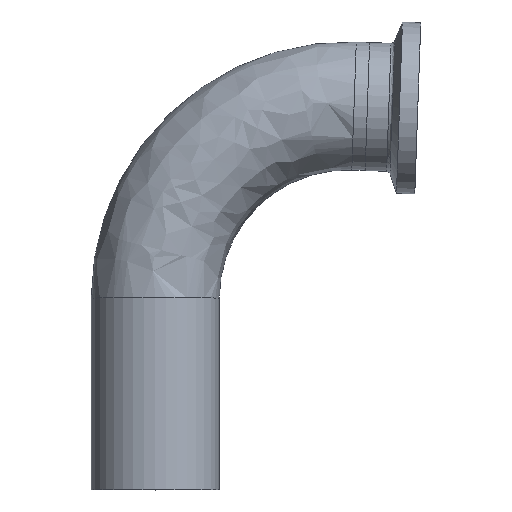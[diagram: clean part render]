
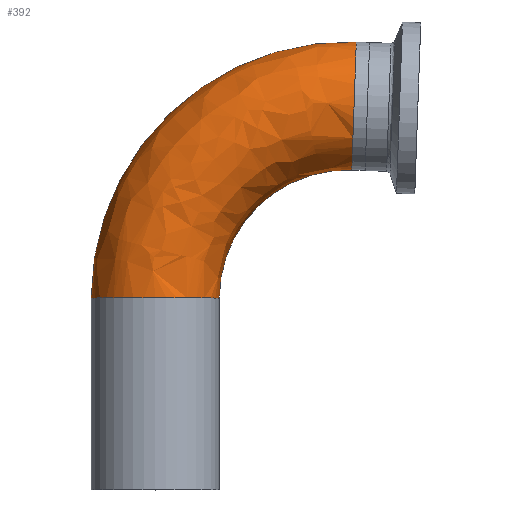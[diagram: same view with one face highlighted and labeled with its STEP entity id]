
A CAD part, top view. The second image highlights one B-rep face of the part: STEP entity #392.
In plain terms, the highlighted free-form (B-spline) face has degree [3, 3] with [4, 4] control points.
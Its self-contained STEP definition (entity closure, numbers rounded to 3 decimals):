
#55 = AXIS2_PLACEMENT_3D ( 'NONE', #901, #341, #1242 ) ;
#93 = EDGE_CURVE ( 'NONE', #308, #346, #819, .T. ) ;
#213 = EDGE_CURVE ( 'NONE', #777, #415, #681, .T. ) ;
#237 = EDGE_CURVE ( 'NONE', #308, #415, #755, .T. ) ;
#295 = AXIS2_PLACEMENT_3D ( 'NONE', #1063, #533, #599 ) ;
#304 = ORIENTED_EDGE ( 'NONE', *, *, #213, .T. ) ;
#308 = VERTEX_POINT ( 'NONE', #402 ) ;
#321 = ORIENTED_EDGE ( 'NONE', *, *, #783, .T. ) ;
#341 = DIRECTION ( 'NONE',  ( 0., 1., 0. ) ) ;
#346 = VERTEX_POINT ( 'NONE', #678 ) ;
#392 = ADVANCED_FACE ( 'NONE', ( #1168 ), #582, .T. ) ;
#402 = CARTESIAN_POINT ( 'NONE',  ( -12.7, 38.055, 0. ) ) ;
#405 = ORIENTED_EDGE ( 'NONE', *, *, #93, .T. ) ;
#415 = VERTEX_POINT ( 'NONE', #1013 ) ;
#520 = AXIS2_PLACEMENT_3D ( 'NONE', #815, #904, #715 ) ;
#533 = DIRECTION ( 'NONE',  ( 0., 0., -1. ) ) ;
#582 =( BOUNDED_SURFACE ( )  B_SPLINE_SURFACE ( 3, 3, ( 
 ( #709, #1141, #1122, #1116 ),
 ( #1111, #1040, #1028, #1019 ),
 ( #1016, #921, #853, #839 ),
 ( #837, #820, #814, #754 ) ),
 .UNSPECIFIED., .F., .F., .F. ) 
 B_SPLINE_SURFACE_WITH_KNOTS ( ( 4, 4 ),
 ( 4, 4 ),
 ( 0., 1. ),
 ( 0., 1. ),
 .UNSPECIFIED. ) 
 GEOMETRIC_REPRESENTATION_ITEM ( )  RATIONAL_B_SPLINE_SURFACE ( (
 ( 1., 0.796, 0.796, 1.),
 ( 0.333, 0.265, 0.265, 0.333),
 ( 0.333, 0.265, 0.265, 0.333),
 ( 1., 0.796, 0.796, 1.) ) ) 
 REPRESENTATION_ITEM ( '' )  SURFACE ( )  );
#599 = DIRECTION ( 'NONE',  ( -1., 0., 0. ) ) ;
#659 = EDGE_LOOP ( 'NONE', ( #405, #321, #304, #747 ) ) ;
#678 = CARTESIAN_POINT ( 'NONE',  ( 12.7, 38.055, 0. ) ) ;
#681 = CIRCLE ( 'NONE', #520, 12.7 ) ;
#709 = CARTESIAN_POINT ( 'NONE',  ( -12.7, 38.055, 0. ) ) ;
#715 = DIRECTION ( 'NONE',  ( 0.035, 0.999, 0. ) ) ;
#747 = ORIENTED_EDGE ( 'NONE', *, *, #237, .F. ) ;
#754 = CARTESIAN_POINT ( 'NONE',  ( 38.986, 63.439, 0. ) ) ;
#755 = CIRCLE ( 'NONE', #295, 50.8 ) ;
#777 = VERTEX_POINT ( 'NONE', #1036 ) ;
#783 = EDGE_CURVE ( 'NONE', #346, #777, #999, .T. ) ;
#814 = CARTESIAN_POINT ( 'NONE',  ( 23.702, 63.973, 0. ) ) ;
#815 = CARTESIAN_POINT ( 'NONE',  ( 39.43, 76.131, 0. ) ) ;
#819 = CIRCLE ( 'NONE', #55, 12.7 ) ;
#820 = CARTESIAN_POINT ( 'NONE',  ( 12.7, 53.349, 0. ) ) ;
#837 = CARTESIAN_POINT ( 'NONE',  ( 12.7, 38.055, 0. ) ) ;
#839 = CARTESIAN_POINT ( 'NONE',  ( 38.986, 63.439, 25.4 ) ) ;
#853 = CARTESIAN_POINT ( 'NONE',  ( 23.702, 63.973, 25.4 ) ) ;
#901 = CARTESIAN_POINT ( 'NONE',  ( 0., 38.055, 0. ) ) ;
#904 = DIRECTION ( 'NONE',  ( -0.999, 0.035, 0. ) ) ;
#921 = CARTESIAN_POINT ( 'NONE',  ( 12.7, 53.349, 25.4 ) ) ;
#999 = CIRCLE ( 'NONE', #1194, 25.4 ) ;
#1013 = CARTESIAN_POINT ( 'NONE',  ( 39.873, 88.824, 0. ) ) ;
#1016 = CARTESIAN_POINT ( 'NONE',  ( 12.7, 38.055, 25.4 ) ) ;
#1019 = CARTESIAN_POINT ( 'NONE',  ( 39.873, 88.824, 25.4 ) ) ;
#1028 = CARTESIAN_POINT ( 'NONE',  ( 9.303, 89.891, 25.4 ) ) ;
#1036 = CARTESIAN_POINT ( 'NONE',  ( 38.986, 63.439, 0. ) ) ;
#1040 = CARTESIAN_POINT ( 'NONE',  ( -12.7, 68.643, 25.4 ) ) ;
#1063 = CARTESIAN_POINT ( 'NONE',  ( 38.1, 38.055, 0. ) ) ;
#1111 = CARTESIAN_POINT ( 'NONE',  ( -12.7, 38.055, 25.4 ) ) ;
#1116 = CARTESIAN_POINT ( 'NONE',  ( 39.873, 88.824, 0. ) ) ;
#1122 = CARTESIAN_POINT ( 'NONE',  ( 9.303, 89.891, 0. ) ) ;
#1129 = CARTESIAN_POINT ( 'NONE',  ( 38.1, 38.055, 0. ) ) ;
#1141 = CARTESIAN_POINT ( 'NONE',  ( -12.7, 68.643, 0. ) ) ;
#1164 = DIRECTION ( 'NONE',  ( 0., 0., -1. ) ) ;
#1167 = DIRECTION ( 'NONE',  ( -1., 0., 0. ) ) ;
#1168 = FACE_OUTER_BOUND ( 'NONE', #659, .T. ) ;
#1194 = AXIS2_PLACEMENT_3D ( 'NONE', #1129, #1164, #1167 ) ;
#1242 = DIRECTION ( 'NONE',  ( -1., 0., 0. ) ) ;
